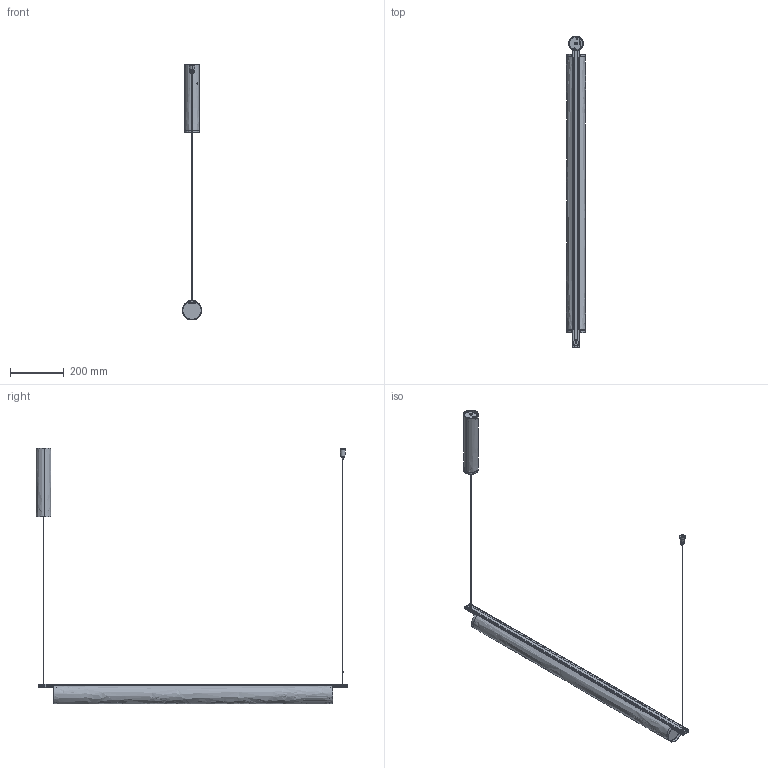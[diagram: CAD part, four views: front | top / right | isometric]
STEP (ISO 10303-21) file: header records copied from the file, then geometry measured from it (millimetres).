
FILE_DESCRIPTION(/* description */ (''),/* implementation_level */ '2;1');
FILE_NAME(/* name */ 'Ombra L160__115',/* time_stamp */ '2025-05-26T15:08:49+02:00',/* author */ (''),/* organization */ (''),/* preprocessor_version */ 'ST-DEVELOPER v16.5',/* originating_system */ '',/* authorisation */ '');
FILE_SCHEMA (('AUTOMOTIVE_DESIGN'));
Length unit declared in the file: millimetre
Products named in the file (10): Document; Parte2^1800.0017001.00 (dispositivo sospensione meccanica singola M79
D); 3300.0298000.00 (manicotto per sospensione singola ALL D 20mm H 32mm 
con foro M10x1)_3302.0298000.00; 3300.0250000.00 (tubo rosone ALL D 55mm sp 2)_3306.0250025.00; 3200.0913000.00 (staffa rosone ACC 49x41,1mm H 248mm sp 1,2 con testa
ta di chiusura)_3210.0913000.00; 3200.0912000.00 (staffa rosone ACC 49x41,1mm H 248mm sp 1,2)_3209.091
2000.00; 3200.0021000.00 (testata rosone ACC D 50,7mm sp 1,2)_3201.0021000.00; 5200.0002000.00 (dispositivo regolazione fune OTTONE nichelato con in
nesto maschio M10 L 14mm)_5200.0002000.00; 4504.0004000.00 (passacavo D int. 5,9mm L 10,5mm Steab 5101)_4504.000
4000.00; 5205.0001010.00 (raccordo fresato OTTONE D 12mm sp 3 gambo H 10mm M10
x1 Sacla 13501)_5205.0001010.00
Assembly tree (12 placements, depth 3):
  Document
    Parte2^1800.0017001.00 (dispositivo sospensione meccanica singola M79
D)
    3300.0298000.00 (manicotto per sospensione singola ALL D 20mm H 32mm 
con foro M10x1)_3302.0298000.00
    3300.0250000.00 (tubo rosone ALL D 55mm sp 2)_3306.0250025.00
    3200.0913000.00 (staffa rosone ACC 49x41,1mm H 248mm sp 1,2 con testa
ta di chiusura)_3210.0913000.00
      3200.0912000.00 (staffa rosone ACC 49x41,1mm H 248mm sp 1,2)_3209.091
2000.00
      3200.0021000.00 (testata rosone ACC D 50,7mm sp 1,2)_3201.0021000.00
    5200.0002000.00 (dispositivo regolazione fune OTTONE nichelato con in
nesto maschio M10 L 14mm)_5200.0002000.00
    4504.0004000.00 (passacavo D int. 5,9mm L 10,5mm Steab 5101)_4504.000
4000.00  x3
    5205.0001010.00 (raccordo fresato OTTONE D 12mm sp 3 gambo H 10mm M10
x1 Sacla 13501)_5205.0001010.00  x2
Bounding box: 71 x 1161.47 x 954.09 mm (x, y, z)
Volume: 468751.2 mm3; surface area: 762923.6 mm2
Topology: 19 solids, 19 shells, 824 faces, 2143 edges, 1360 vertices
Faces by surface type: bspline 535, plane 289
Entity records: 50327 total; most frequent: CARTESIAN_POINT 39320, ORIENTED_EDGE 3626, EDGE_CURVE 1813, VERTEX_POINT 1154, B_SPLINE_CURVE_WITH_KNOTS 1064, EDGE_LOOP 753, ADVANCED_FACE 691, FACE_OUTER_BOUND 691
